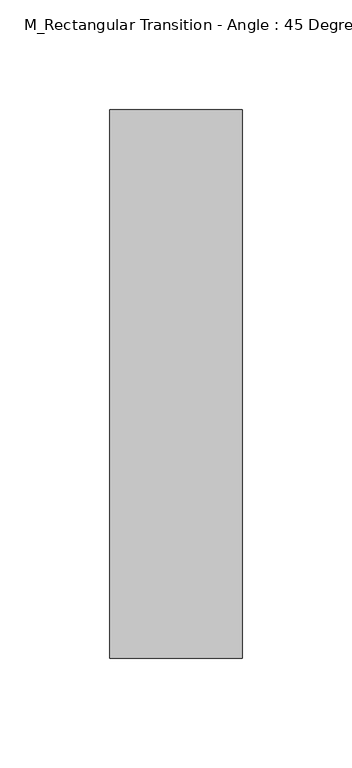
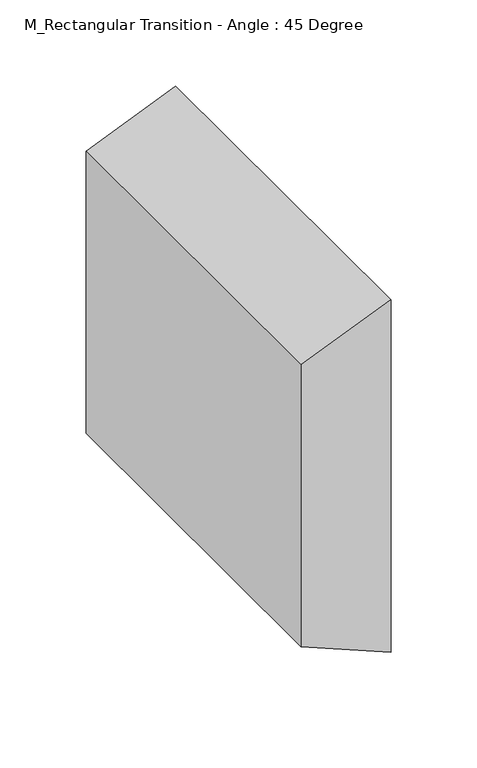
"""IFC4 building model written with IfcOpenShell, lengths in millimetres: duct fitting geometry, M_Rectangular Transition - Angle : 45 Degree."""

from ifc_helpers import new_model, si_unit, frame, origin, place, context, project, spatial, polyline, outline, extrude, source, transform, mapped, element, save


def m_rectangular_transition_angle_45_degree_9245851e(model_context):
    return source(origin(), model_context, "Body", "SweptSolid", [
        extrude(outline(polyline([(-100.0, 0.0), (100.0, 0.0), (124.95, -60.3553037), (-125.05, -60.3553037), (-100.0, 0.0)])), frame((0.0, -125.0, 0.0), z_axis=(-4.433803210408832e-12, 1.0, 0.0), x_axis=(0.0, 0.0, -1.0)), (0.0, 0.0, 1.0), 250.0),
        extrude(outline(polyline([(-100.0, 0.0), (100.0, 0.0), (124.95, -60.3553037), (-125.05, -60.3553037), (-100.0, 0.0)])), frame((0.0, -125.0, 0.0), z_axis=(-1.3635570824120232e-12, 1.0, 0.0), x_axis=(0.0, 0.0, -1.0)), (0.0, 0.0, 1.0), 250.0),
        extrude(outline(polyline([(100.0, 0.0), (-100.0, 0.0), (-124.95, 60.3553037), (125.05, 60.3553037), (100.0, 0.0)])), frame((0.0, -125.0, 0.0), z_axis=(0.0, 1.0, 0.0), x_axis=(0.0, 0.0, 1.0)), (0.0, 0.0, 1.0), 250.0),
    ])


if __name__ == "__main__":
    model = new_model("IFC4")
    model_context = context("Model", 3, world=origin())
    ifc_project = project(units=[si_unit("LENGTHUNIT", "METRE", prefix="MILLI")], contexts=[model_context])
    site = spatial("IfcSite", under=ifc_project)
    building = spatial("IfcBuilding", under=site)
    placement = place(None, origin())
    m_rectangular_transition_angle_45_degree_shape = m_rectangular_transition_angle_45_degree_9245851e(model_context)
    element("IfcDuctFitting", 1, ObjectType="M_Rectangular Transition - Angle : 45 Degree", at=placement, inside=building, context=model_context, shape_type="MappedRepresentation", body=[
        mapped(m_rectangular_transition_angle_45_degree_shape, transform((0.0, 0.0, 0.0), x_axis=(1.0, 0.0, 0.0), y_axis=(0.0, 1.0, 0.0), z_axis=(0.0, 0.0, 1.0))),
    ])
    save(model, "model.ifc")
